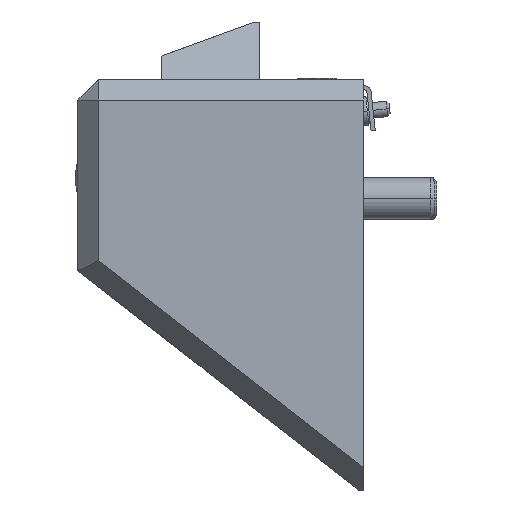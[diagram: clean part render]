
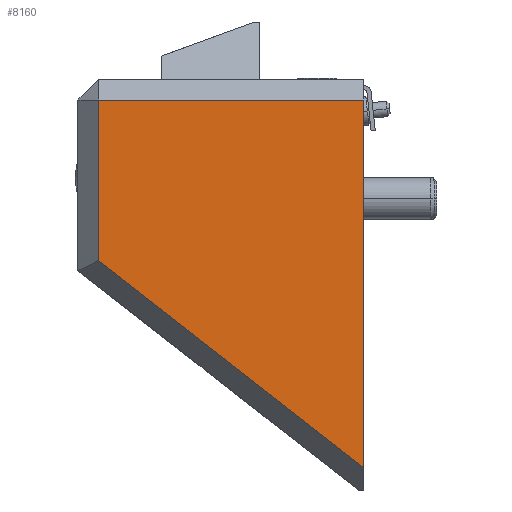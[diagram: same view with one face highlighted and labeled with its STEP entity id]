
A CAD part, left-side view. The second image highlights one B-rep face of the part: STEP entity #8160.
In plain terms, the highlighted planar face has unit normal (-1, 0, 0).
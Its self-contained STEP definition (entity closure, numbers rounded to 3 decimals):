
#83 = EDGE_LOOP ( 'NONE', ( #933, #7254, #331, #4674 ) ) ;
#218 = EDGE_CURVE ( 'NONE', #7718, #3938, #5755, .T. ) ;
#250 = DIRECTION ( 'NONE',  ( 0., 0., -1. ) ) ;
#315 = CARTESIAN_POINT ( 'NONE',  ( 18.5, 83., 158. ) ) ;
#331 = ORIENTED_EDGE ( 'NONE', *, *, #4327, .T. ) ;
#441 = DIRECTION ( 'NONE',  ( 0., 0., -1. ) ) ;
#933 = ORIENTED_EDGE ( 'NONE', *, *, #8761, .T. ) ;
#1114 = VERTEX_POINT ( 'NONE', #315 ) ;
#1309 = CARTESIAN_POINT ( 'NONE',  ( 18.5, 134., 127.14 ) ) ;
#2414 = LINE ( 'NONE', #8670, #2622 ) ;
#2622 = VECTOR ( 'NONE', #250, 1000. ) ;
#2934 = LINE ( 'NONE', #5252, #6449 ) ;
#3626 = VERTEX_POINT ( 'NONE', #7571 ) ;
#3701 = AXIS2_PLACEMENT_3D ( 'NONE', #8885, #4636, #441 ) ;
#3938 = VERTEX_POINT ( 'NONE', #7949 ) ;
#4327 = EDGE_CURVE ( 'NONE', #3938, #1114, #2934, .T. ) ;
#4388 = LINE ( 'NONE', #7332, #6027 ) ;
#4537 = CARTESIAN_POINT ( 'NONE',  ( 18.5, 80.916, 85.667 ) ) ;
#4636 = DIRECTION ( 'NONE',  ( 1., 0., 0. ) ) ;
#4674 = ORIENTED_EDGE ( 'NONE', *, *, #8054, .T. ) ;
#4855 = DIRECTION ( 'NONE',  ( 0., -0.788, -0.616 ) ) ;
#5157 = FACE_OUTER_BOUND ( 'NONE', #83, .T. ) ;
#5252 = CARTESIAN_POINT ( 'NONE',  ( 18.5, 83., 83. ) ) ;
#5755 = LINE ( 'NONE', #4537, #7427 ) ;
#5942 = DIRECTION ( 'NONE',  ( 0., 0., 1. ) ) ;
#6027 = VECTOR ( 'NONE', #8750, 1000. ) ;
#6449 = VECTOR ( 'NONE', #5942, 1000. ) ;
#7254 = ORIENTED_EDGE ( 'NONE', *, *, #218, .T. ) ;
#7332 = CARTESIAN_POINT ( 'NONE',  ( 18.5, 138., 158. ) ) ;
#7427 = VECTOR ( 'NONE', #4855, 1000. ) ;
#7571 = CARTESIAN_POINT ( 'NONE',  ( 18.5, 134., 158. ) ) ;
#7718 = VERTEX_POINT ( 'NONE', #1309 ) ;
#7949 = CARTESIAN_POINT ( 'NONE',  ( 18.5, 83., 87.295 ) ) ;
#8054 = EDGE_CURVE ( 'NONE', #1114, #3626, #4388, .T. ) ;
#8160 = ADVANCED_FACE ( 'NONE', ( #5157 ), #8161, .F. ) ;
#8161 = PLANE ( 'NONE',  #3701 ) ;
#8670 = CARTESIAN_POINT ( 'NONE',  ( 18.5, 134., 83. ) ) ;
#8750 = DIRECTION ( 'NONE',  ( 0., 1., 0. ) ) ;
#8761 = EDGE_CURVE ( 'NONE', #3626, #7718, #2414, .T. ) ;
#8885 = CARTESIAN_POINT ( 'NONE',  ( 18.5, 83., 83. ) ) ;
